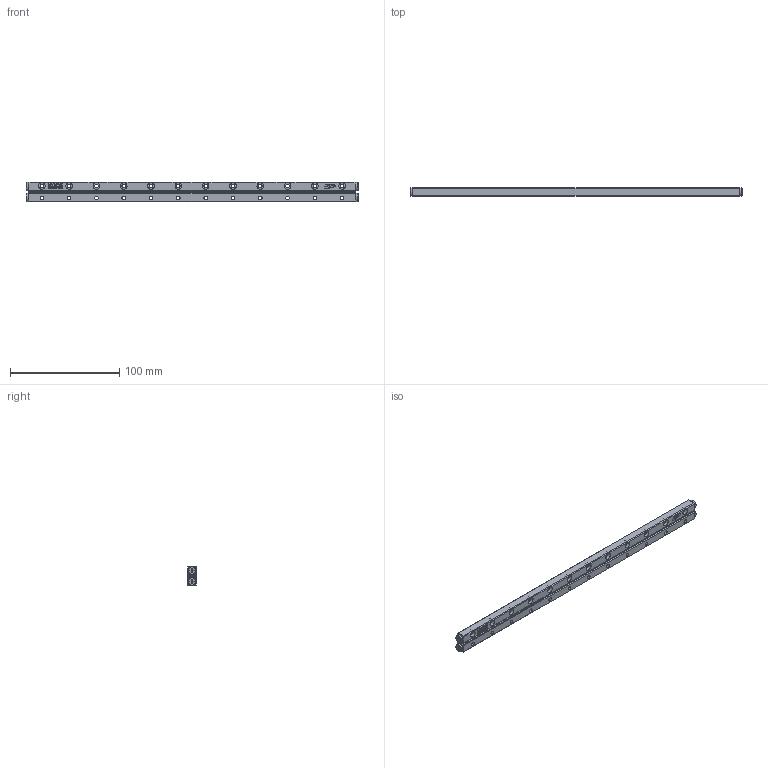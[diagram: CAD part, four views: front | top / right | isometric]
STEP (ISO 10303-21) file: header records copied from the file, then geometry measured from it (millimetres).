
FILE_DESCRIPTION (( 'STEP AP203' ), '1' );
FILE_NAME ('GRV03-300.STEP', '2023-10-20T08:09:41', ( '' ), ( '' ), 'SwSTEP 2.0', 'SolidWorks 2019', '' );
FILE_SCHEMA (( 'CONFIG_CONTROL_DESIGN' ));
Length unit declared in the file: millimetre
Products named in the file (3): GRV03-300-模糊化保持器組; GRV03-300; GRV03-300-模糊化軌道
Assembly tree (3 placements, depth 2):
  GRV03-300
    GRV03-300-模糊化軌道  x2
    GRV03-300-模糊化保持器組
Bounding box: 304 x 8 x 18 mm (x, y, z)
Volume: 36118.3 mm3; surface area: 26222.1 mm2
Topology: 3 solids, 3 shells, 1402 faces, 3448 edges, 2248 vertices
Faces by surface type: plane 1006, bspline 154, cylinder 126, torus 80, cone 36
Full cylindrical faces by diameter (mm): 3.3 x24, 6 x24, 7.5 x4
Entity records: 34611 total; most frequent: CARTESIAN_POINT 11235, ORIENTED_EDGE 4884, DIRECTION 4200, EDGE_CURVE 2442, LINE 1770, VECTOR 1770, VERTEX_POINT 1618, EDGE_LOOP 1256
